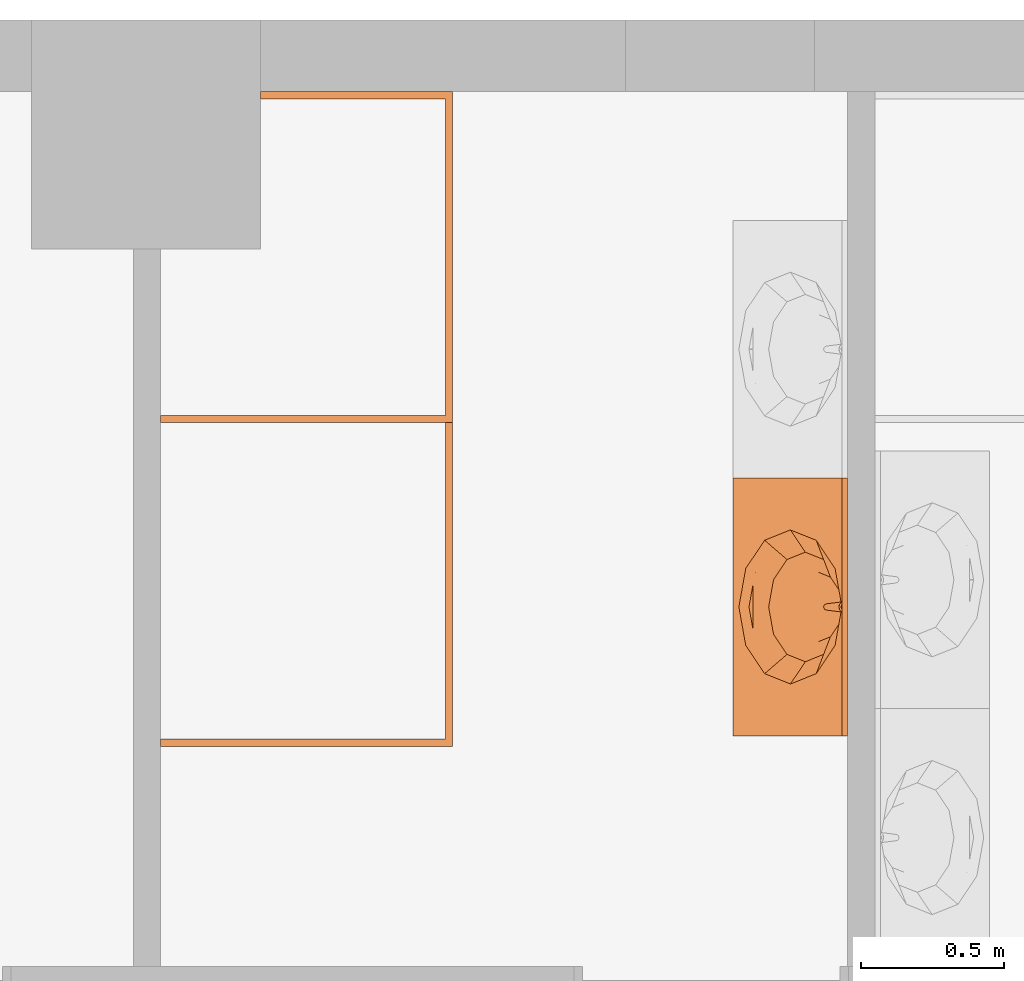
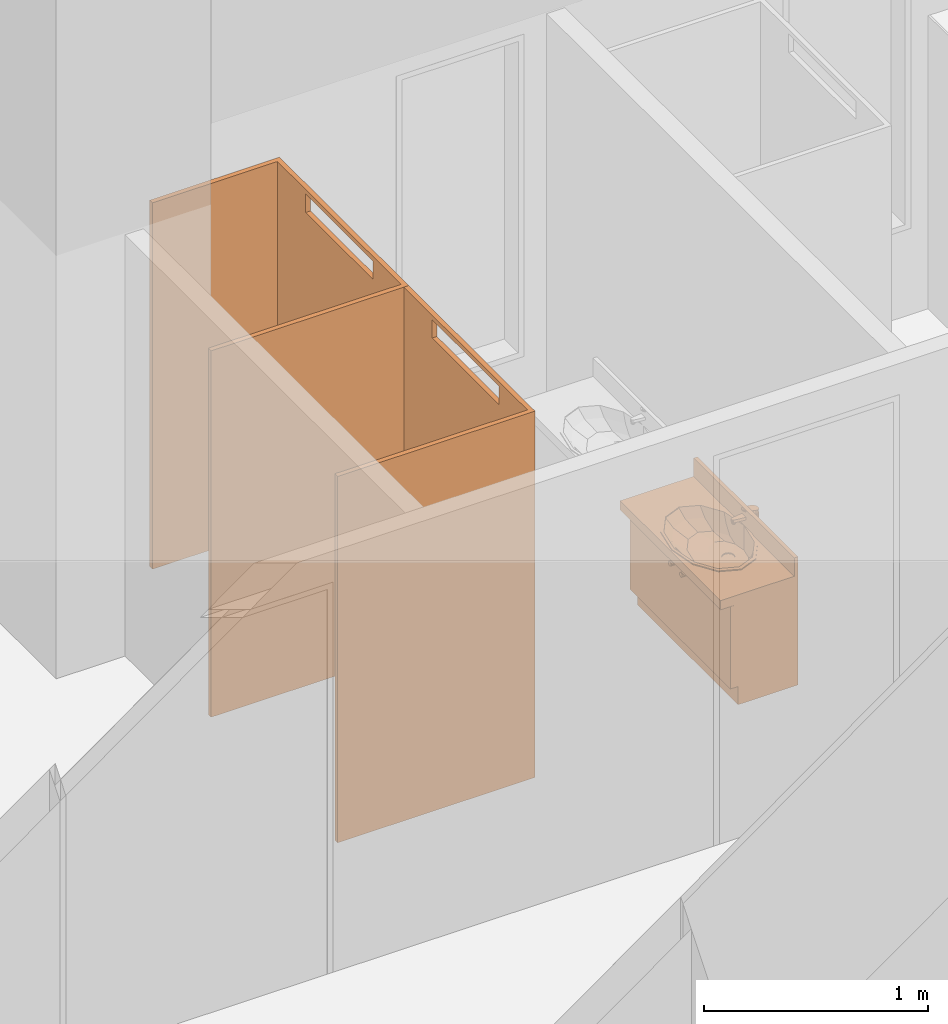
# One storey, part 13 of 17: 3 proxies.
"""IFC2X3 building model written with IfcOpenShell, lengths in millimetres."""

from ifc_helpers import new_model, entity, si_unit, converted_unit, direction, frame, origin_with_axes, place, context, project, spatial, open_shell, faceted_brep, surface_model, material, element, save


model = new_model("IFC2X3")

# Units and contexts
model_context = context("Model", 3, precision=1e-05, world=origin_with_axes(), true_north=direction((0.0, 1.0)))
ifc_project = project(units=[si_unit("LENGTHUNIT", "METRE", prefix="MILLI"), si_unit("AREAUNIT", "SQUARE_METRE"), si_unit("VOLUMEUNIT", "CUBIC_METRE"), converted_unit("PLANEANGLEUNIT", "DEGREE", entity("IfcPlaneAngleMeasure", 0.017453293), si_unit("PLANEANGLEUNIT", "RADIAN"), dimensions=[0, 0, 0, 0, 0, 0, 0]), si_unit("SOLIDANGLEUNIT", "STERADIAN"), si_unit("MASSUNIT", "GRAM"), si_unit("TIMEUNIT", "SECOND"), si_unit("THERMODYNAMICTEMPERATUREUNIT", "DEGREE_CELSIUS"), si_unit("LUMINOUSINTENSITYUNIT", "LUMEN")], contexts=[model_context])

# Site, building, storey
site_placement = place(None, origin_with_axes())
site = spatial("IfcSite", under=ifc_project, at=site_placement, Name="\x83T\x83C\x83g", CompositionType="ELEMENT")
building_placement = place(site_placement, origin_with_axes())
building = spatial("IfcBuilding", under=site, at=building_placement, Name="Daitec-Sample 201208", CompositionType="ELEMENT")
storey_placement = place(building_placement, origin_with_axes())
storey = spatial("IfcBuildingStorey", under=building, at=storey_placement, Name="1F", CompositionType="ELEMENT", Elevation=0.0)

# Proxies
ifc_material = material(Name="\x94w\x8ci")
proxy_1_placement = place(storey_placement, frame((19570.72, 22394.354, 0.0), z_axis=(0.0, 0.0, 1.0), x_axis=(0.0, 1.0, 0.0)))
element("IfcBuildingElementProxy", 1, at=proxy_1_placement, inside=storey, material=ifc_material, Name="O0", CompositionType="ELEMENT", context=model_context, shape_type="Brep", body=[
    faceted_brep([(0.0, 0.0, 200.0), (277.82295, 0.0, 200.0), (277.82295, 0.0, 1975.0), (0.0, 0.0, 1975.0), (0.0, 25.0, 200.0), (277.82295, 25.0, 200.0), (277.82295, 25.0, 1975.0), (0.0, 25.0, 1975.0)], [[[0, 1, 2, 3]], [[0, 4, 5, 1]], [[1, 5, 6, 2]], [[3, 2, 6, 7]], [[4, 0, 3, 7]], [[5, 4, 7, 6]]]),
    faceted_brep([(877.82295, 0.0, 200.0), (1155.6459, 0.0, 200.0), (1155.6459, 0.0, 1975.0), (877.82295, 0.0, 1975.0), (877.82295, 25.0, 200.0), (1155.6459, 25.0, 200.0), (1155.6459, 25.0, 1975.0), (877.82295, 25.0, 1975.0)], [[[0, 1, 2, 3]], [[0, 4, 5, 1]], [[1, 5, 6, 2]], [[3, 2, 6, 7]], [[4, 0, 3, 7]], [[5, 4, 7, 6]]]),
    faceted_brep([(0.0, 0.0, 0.0), (277.82295, 0.0, 0.0), (277.82295, 0.0, 200.0), (0.0, 0.0, 200.0), (0.0, 25.0, 0.0), (277.82295, 25.0, 0.0), (277.82295, 25.0, 200.0), (0.0, 25.0, 200.0)], [[[0, 1, 2, 3]], [[0, 4, 5, 1]], [[1, 5, 6, 2]], [[3, 2, 6, 7]], [[4, 0, 3, 7]], [[5, 4, 7, 6]]]),
    faceted_brep([(877.82295, 0.0, 0.0), (1155.6459, 0.0, 0.0), (1155.6459, 0.0, 200.0), (877.82295, 0.0, 200.0), (877.82295, 25.0, 0.0), (1155.6459, 25.0, 0.0), (1155.6459, 25.0, 200.0), (877.82295, 25.0, 200.0)], [[[0, 1, 2, 3]], [[0, 4, 5, 1]], [[1, 5, 6, 2]], [[3, 2, 6, 7]], [[4, 0, 3, 7]], [[5, 4, 7, 6]]]),
    faceted_brep([(1155.6459, 0.0, 1975.0), (1155.6459, 25.0, 1975.0), (1155.6459, 25.0, 2000.0), (1155.6459, 0.0, 2000.0), (0.0, 0.0, 1975.0), (0.0, 25.0, 1975.0), (0.0, 25.0, 2000.0), (0.0, 0.0, 2000.0)], [[[0, 1, 2, 3]], [[0, 4, 5, 1]], [[1, 5, 6, 2]], [[3, 2, 6, 7]], [[4, 0, 3, 7]], [[5, 4, 7, 6]]]),
    faceted_brep([(277.82295, 0.0, 50.0), (877.82295, 0.0, 50.0), (877.82295, 0.0, 1875.0), (277.82295, 0.0, 1875.0), (277.82295, 25.0, 50.0), (877.82295, 25.0, 50.0), (877.82295, 25.0, 1875.0), (277.82295, 25.0, 1875.0)], [[[0, 1, 2, 3]], [[0, 4, 5, 1]], [[1, 5, 6, 2]], [[3, 2, 6, 7]], [[4, 0, 3, 7]], [[5, 4, 7, 6]]]),
    faceted_brep([(25.0, 25.0, 0.0), (25.0, 1019.9703, 0.0), (25.0, 1019.9703, 2000.0), (25.0, 25.0, 2000.0), (0.0, 25.0, 0.0), (0.0, 1019.9703, 0.0), (0.0, 1019.9703, 2000.0), (0.0, 25.0, 2000.0)], [[[0, 1, 2, 3]], [[0, 4, 5, 1]], [[1, 5, 6, 2]], [[3, 2, 6, 7]], [[4, 0, 3, 7]], [[5, 4, 7, 6]]]),
    faceted_brep([(25.0, 25.0, 1775.0), (25.0, 1019.9703, 1775.0), (25.0, 1019.9703, 1800.0), (25.0, 25.0, 1800.0), (0.0, 25.0, 1775.0), (0.0, 1019.9703, 1775.0), (0.0, 1019.9703, 1800.0), (0.0, 25.0, 1800.0)], [[[0, 1, 2, 3]], [[0, 4, 5, 1]], [[1, 5, 6, 2]], [[3, 2, 6, 7]], [[4, 0, 3, 7]], [[5, 4, 7, 6]]]),
    faceted_brep([(1155.6459, 25.0, 0.0), (1155.6459, 670.22795, 0.0), (1155.6459, 670.22795, 2000.0), (1155.6459, 25.0, 2000.0), (1130.6459, 25.0, 0.0), (1130.6459, 670.22795, 0.0), (1130.6459, 670.22795, 2000.0), (1130.6459, 25.0, 2000.0)], [[[0, 1, 2, 3]], [[0, 4, 5, 1]], [[1, 5, 6, 2]], [[3, 2, 6, 7]], [[4, 0, 3, 7]], [[5, 4, 7, 6]]]),
    faceted_brep([(1155.6459, 25.0, 1775.0), (1155.6459, 670.22795, 1775.0), (1155.6459, 670.22795, 1800.0), (1155.6459, 25.0, 1800.0), (1130.6459, 25.0, 1775.0), (1130.6459, 670.22795, 1775.0), (1130.6459, 670.22795, 1800.0), (1130.6459, 25.0, 1800.0)], [[[0, 1, 2, 3]], [[0, 4, 5, 1]], [[1, 5, 6, 2]], [[3, 2, 6, 7]], [[4, 0, 3, 7]], [[5, 4, 7, 6]]]),
])
proxy_2_placement = place(storey_placement, frame((19570.72, 21263.708, 0.0), z_axis=(0.0, 0.0, 1.0), x_axis=(0.0, 1.0, 0.0)))
element("IfcBuildingElementProxy", 2, at=proxy_2_placement, inside=storey, material=ifc_material, Name="O0", CompositionType="ELEMENT", context=model_context, shape_type="Brep", body=[
    faceted_brep([(0.0, 0.0, 200.0), (277.82295, 0.0, 200.0), (277.82295, 0.0, 1975.0), (0.0, 0.0, 1975.0), (0.0, 25.0, 200.0), (277.82295, 25.0, 200.0), (277.82295, 25.0, 1975.0), (0.0, 25.0, 1975.0)], [[[0, 1, 2, 3]], [[0, 4, 5, 1]], [[1, 5, 6, 2]], [[3, 2, 6, 7]], [[4, 0, 3, 7]], [[5, 4, 7, 6]]]),
    faceted_brep([(877.82295, 0.0, 200.0), (1155.6459, 0.0, 200.0), (1155.6459, 0.0, 1975.0), (877.82295, 0.0, 1975.0), (877.82295, 25.0, 200.0), (1155.6459, 25.0, 200.0), (1155.6459, 25.0, 1975.0), (877.82295, 25.0, 1975.0)], [[[0, 1, 2, 3]], [[0, 4, 5, 1]], [[1, 5, 6, 2]], [[3, 2, 6, 7]], [[4, 0, 3, 7]], [[5, 4, 7, 6]]]),
    faceted_brep([(0.0, 0.0, 0.0), (277.82295, 0.0, 0.0), (277.82295, 0.0, 200.0), (0.0, 0.0, 200.0), (0.0, 25.0, 0.0), (277.82295, 25.0, 0.0), (277.82295, 25.0, 200.0), (0.0, 25.0, 200.0)], [[[0, 1, 2, 3]], [[0, 4, 5, 1]], [[1, 5, 6, 2]], [[3, 2, 6, 7]], [[4, 0, 3, 7]], [[5, 4, 7, 6]]]),
    faceted_brep([(877.82295, 0.0, 0.0), (1155.6459, 0.0, 0.0), (1155.6459, 0.0, 200.0), (877.82295, 0.0, 200.0), (877.82295, 25.0, 0.0), (1155.6459, 25.0, 0.0), (1155.6459, 25.0, 200.0), (877.82295, 25.0, 200.0)], [[[0, 1, 2, 3]], [[0, 4, 5, 1]], [[1, 5, 6, 2]], [[3, 2, 6, 7]], [[4, 0, 3, 7]], [[5, 4, 7, 6]]]),
    faceted_brep([(1155.6459, 0.0, 1975.0), (1155.6459, 25.0, 1975.0), (1155.6459, 25.0, 2000.0), (1155.6459, 0.0, 2000.0), (0.0, 0.0, 1975.0), (0.0, 25.0, 1975.0), (0.0, 25.0, 2000.0), (0.0, 0.0, 2000.0)], [[[0, 1, 2, 3]], [[0, 4, 5, 1]], [[1, 5, 6, 2]], [[3, 2, 6, 7]], [[4, 0, 3, 7]], [[5, 4, 7, 6]]]),
    faceted_brep([(277.82295, 0.0, 50.0), (877.82295, 0.0, 50.0), (877.82295, 0.0, 1875.0), (277.82295, 0.0, 1875.0), (277.82295, 25.0, 50.0), (877.82295, 25.0, 50.0), (877.82295, 25.0, 1875.0), (277.82295, 25.0, 1875.0)], [[[0, 1, 2, 3]], [[0, 4, 5, 1]], [[1, 5, 6, 2]], [[3, 2, 6, 7]], [[4, 0, 3, 7]], [[5, 4, 7, 6]]]),
    faceted_brep([(25.0, 25.0, 0.0), (25.0, 1019.9703, 0.0), (25.0, 1019.9703, 2000.0), (25.0, 25.0, 2000.0), (0.0, 25.0, 0.0), (0.0, 1019.9703, 0.0), (0.0, 1019.9703, 2000.0), (0.0, 25.0, 2000.0)], [[[0, 1, 2, 3]], [[0, 4, 5, 1]], [[1, 5, 6, 2]], [[3, 2, 6, 7]], [[4, 0, 3, 7]], [[5, 4, 7, 6]]]),
    faceted_brep([(25.0, 25.0, 1775.0), (25.0, 1019.9703, 1775.0), (25.0, 1019.9703, 1800.0), (25.0, 25.0, 1800.0), (0.0, 25.0, 1775.0), (0.0, 1019.9703, 1775.0), (0.0, 1019.9703, 1800.0), (0.0, 25.0, 1800.0)], [[[0, 1, 2, 3]], [[0, 4, 5, 1]], [[1, 5, 6, 2]], [[3, 2, 6, 7]], [[4, 0, 3, 7]], [[5, 4, 7, 6]]]),
    faceted_brep([(1155.6459, 25.0, 0.0), (1155.6459, 1019.9703, 0.0), (1155.6459, 1019.9703, 2000.0), (1155.6459, 25.0, 2000.0), (1130.6459, 25.0, 0.0), (1130.6459, 1019.9703, 0.0), (1130.6459, 1019.9703, 2000.0), (1130.6459, 25.0, 2000.0)], [[[0, 1, 2, 3]], [[0, 4, 5, 1]], [[1, 5, 6, 2]], [[3, 2, 6, 7]], [[4, 0, 3, 7]], [[5, 4, 7, 6]]]),
    faceted_brep([(1155.6459, 25.0, 1775.0), (1155.6459, 1019.9703, 1775.0), (1155.6459, 1019.9703, 1800.0), (1155.6459, 25.0, 1800.0), (1130.6459, 25.0, 1775.0), (1130.6459, 1019.9703, 1775.0), (1130.6459, 1019.9703, 1800.0), (1130.6459, 25.0, 1800.0)], [[[0, 1, 2, 3]], [[0, 4, 5, 1]], [[1, 5, 6, 2]], [[3, 2, 6, 7]], [[4, 0, 3, 7]], [[5, 4, 7, 6]]]),
])
proxy_3_placement = place(storey_placement, frame((20550.071, 21300.379, 0.0), z_axis=(0.0, 0.0, 1.0), x_axis=(0.0, -1.0, 0.0)))
element("IfcBuildingElementProxy", 3, at=proxy_3_placement, inside=storey, material=ifc_material, Name="O2", context=model_context, shape_type="Brep", body=[
    faceted_brep([(0.0, 90.0, 0.0), (0.0, 90.0, 100.0), (-900.0, 90.0, 100.0), (-900.0, 90.0, 0.0), (0.0, 400.0, 0.0), (0.0, 400.0, 100.0), (-900.0, 400.0, 100.0), (-900.0, 400.0, 0.0)], [[[0, 1, 2, 3]], [[4, 5, 1, 0]], [[1, 5, 6, 2]], [[3, 2, 6, 7]], [[0, 3, 7, 4]], [[7, 6, 5, 4]]]),
    faceted_brep([(0.0, 70.0, 100.0), (0.0, 70.0, 120.0), (-20.0, 70.0, 120.0), (-20.0, 70.0, 100.0), (0.0, 400.0, 100.0), (0.0, 400.0, 120.0), (-20.0, 400.0, 120.0), (-880.0, 400.0, 120.0), (-900.0, 400.0, 120.0), (-900.0, 70.0, 120.0), (-880.0, 70.0, 120.0), (-880.0, 70.0, 100.0), (-900.0, 70.0, 100.0), (-900.0, 400.0, 100.0), (-880.0, 400.0, 100.0), (-20.0, 400.0, 100.0)], [[[0, 1, 2, 3]], [[4, 5, 1, 0]], [[1, 5, 6, 7, 8, 9, 10, 2]], [[3, 2, 10, 11]], [[0, 3, 11, 12, 13, 14, 15, 4]], [[15, 6, 5, 4]], [[14, 7, 6, 15]], [[13, 8, 7, 14]], [[12, 9, 8, 13]], [[11, 10, 9, 12]]]),
    faceted_brep([(0.0, 70.0, 120.0), (0.0, 70.0, 550.0), (-20.0, 70.0, 550.0), (-20.0, 70.0, 120.0), (0.0, 400.0, 120.0), (0.0, 400.0, 550.0), (-900.0, 400.0, 550.0), (-900.0, 70.0, 550.0), (-880.0, 70.0, 550.0), (-880.0, 380.0, 550.0), (-20.0, 380.0, 550.0), (-20.0, 380.0, 120.0), (-880.0, 380.0, 120.0), (-880.0, 70.0, 120.0), (-900.0, 70.0, 120.0), (-900.0, 400.0, 120.0)], [[[0, 1, 2, 3]], [[4, 5, 1, 0]], [[1, 5, 6, 7, 8, 9, 10, 2]], [[3, 2, 10, 11]], [[0, 3, 11, 12, 13, 14, 15, 4]], [[15, 6, 5, 4]], [[14, 7, 6, 15]], [[13, 8, 7, 14]], [[12, 9, 8, 13]], [[11, 10, 9, 12]]]),
    faceted_brep([(-880.0, 70.0, 223.33333), (-880.0, 70.0, 243.33333), (-880.0, 380.0, 243.33333), (-880.0, 380.0, 223.33333), (-20.0, 70.0, 223.33333), (-20.0, 70.0, 243.33333), (-20.0, 380.0, 243.33333), (-20.0, 380.0, 223.33333)], [[[0, 1, 2, 3]], [[4, 5, 1, 0]], [[1, 5, 6, 2]], [[3, 2, 6, 7]], [[0, 3, 7, 4]], [[7, 6, 5, 4]]]),
    faceted_brep([(-880.0, 70.0, 366.66667), (-880.0, 70.0, 386.66667), (-880.0, 380.0, 386.66667), (-880.0, 380.0, 366.66667), (-20.0, 70.0, 366.66667), (-20.0, 70.0, 386.66667), (-20.0, 380.0, 386.66667), (-20.0, 380.0, 366.66667)], [[[0, 1, 2, 3]], [[4, 5, 1, 0]], [[1, 5, 6, 2]], [[3, 2, 6, 7]], [[0, 3, 7, 4]], [[7, 6, 5, 4]]]),
    faceted_brep([(0.0, 400.0, 550.0), (0.0, 0.0, 550.0), (-900.0, 0.0, 550.0), (-900.0, 400.0, 550.0), (-216.17314, 290.0, 550.0), (-315.0, 355.88457, 550.0), (-450.0, 380.0, 550.0), (-585.0, 355.88457, 550.0), (-683.82686, 290.0, 550.0), (-720.0, 200.0, 550.0), (-683.82686, 110.0, 550.0), (-585.0, 44.115427, 550.0), (-450.0, 20.0, 550.0), (-315.0, 44.115427, 550.0), (-216.17314, 110.0, 550.0), (-180.0, 200.0, 550.0), (0.0, 400.0, 600.0), (0.0, 0.0, 600.0), (-900.0, 0.0, 600.0), (-900.0, 400.0, 600.0), (-216.17314, 290.0, 600.0), (-315.0, 355.88457, 600.0), (-450.0, 380.0, 600.0), (-585.0, 355.88457, 600.0), (-683.82686, 290.0, 600.0), (-720.0, 200.0, 600.0), (-683.82686, 110.0, 600.0), (-585.0, 44.115427, 600.0), (-450.0, 20.0, 600.0), (-315.0, 44.115427, 600.0), (-216.17314, 110.0, 600.0), (-180.0, 200.0, 600.0)], [[[0, 1, 2, 3], [4, 5, 6, 7, 8, 9, 10, 11, 12, 13, 14, 15]], [[1, 0, 16, 17]], [[2, 1, 17, 18]], [[3, 2, 18, 19]], [[0, 3, 19, 16]], [[20, 21, 5, 4]], [[21, 22, 6, 5]], [[22, 23, 7, 6]], [[23, 24, 8, 7]], [[24, 25, 9, 8]], [[25, 26, 10, 9]], [[26, 27, 11, 10]], [[27, 28, 12, 11]], [[28, 29, 13, 12]], [[29, 30, 14, 13]], [[30, 31, 15, 14]], [[31, 20, 4, 15]], [[18, 17, 16, 19], [24, 23, 22, 21, 20, 31, 30, 29, 28, 27, 26, 25]]]),
    faceted_brep([(0.0, 380.0, 600.0), (0.0, 380.0, 700.0), (-900.0, 380.0, 700.0), (-900.0, 380.0, 600.0), (0.0, 400.0, 600.0), (0.0, 400.0, 700.0), (-900.0, 400.0, 700.0), (-900.0, 400.0, 600.0)], [[[0, 1, 2, 3]], [[4, 5, 1, 0]], [[1, 5, 6, 2]], [[3, 2, 6, 7]], [[0, 3, 7, 4]], [[7, 6, 5, 4]]]),
    faceted_brep([(-739.0, 200.0, 605.0), (-700.28134, 296.69145, 605.0), (-700.28134, 296.69145, 600.0), (-739.0, 200.0, 600.0), (-700.28134, 103.30855, 605.0), (-594.5, 32.525496, 605.0), (-450.0, 6.6171004, 605.0), (-305.5, 32.525496, 605.0), (-199.71866, 103.30855, 605.0), (-161.0, 200.0, 605.0), (-199.71866, 296.69145, 605.0), (-305.5, 367.4745, 605.0), (-450.0, 393.3829, 605.0), (-594.5, 367.4745, 605.0), (-719.0, 200.0, 605.0), (-682.96083, 290.0, 605.0), (-584.5, 355.88457, 605.0), (-450.0, 380.0, 605.0), (-315.5, 355.88457, 605.0), (-217.03917, 290.0, 605.0), (-181.0, 200.0, 605.0), (-217.03917, 110.0, 605.0), (-315.5, 44.115427, 605.0), (-450.0, 20.0, 605.0), (-584.5, 44.115427, 605.0), (-682.96083, 110.0, 605.0), (-594.5, 367.4745, 600.0), (-450.0, 393.3829, 600.0), (-305.5, 367.4745, 600.0), (-199.71866, 296.69145, 600.0), (-161.0, 200.0, 600.0), (-199.71866, 103.30855, 600.0), (-305.5, 32.525496, 600.0), (-450.0, 6.6171004, 600.0), (-594.5, 32.525496, 600.0), (-700.28134, 103.30855, 600.0), (-719.0, 200.0, 600.0), (-682.96083, 110.0, 600.0), (-584.5, 44.115427, 600.0), (-450.0, 20.0, 600.0), (-315.5, 44.115427, 600.0), (-217.03917, 110.0, 600.0), (-181.0, 200.0, 600.0), (-217.03917, 290.0, 600.0), (-315.5, 355.88457, 600.0), (-450.0, 380.0, 600.0), (-584.5, 355.88457, 600.0), (-682.96083, 290.0, 600.0)], [[[0, 1, 2, 3]], [[0, 4, 5, 6, 7, 8, 9, 10, 11, 12, 13, 1], [14, 15, 16, 17, 18, 19, 20, 21, 22, 23, 24, 25]], [[1, 13, 26, 2]], [[3, 2, 26, 27, 28, 29, 30, 31, 32, 33, 34, 35], [36, 37, 38, 39, 40, 41, 42, 43, 44, 45, 46, 47]], [[4, 0, 3, 35]], [[5, 4, 35, 34]], [[6, 5, 34, 33]], [[7, 6, 33, 32]], [[8, 7, 32, 31]], [[9, 8, 31, 30]], [[10, 9, 30, 29]], [[11, 10, 29, 28]], [[12, 11, 28, 27]], [[13, 12, 27, 26]], [[15, 14, 36, 47]], [[16, 15, 47, 46]], [[17, 16, 46, 45]], [[18, 17, 45, 44]], [[19, 18, 44, 43]], [[20, 19, 43, 42]], [[21, 20, 42, 41]], [[22, 21, 41, 40]], [[23, 22, 40, 39]], [[24, 23, 39, 38]], [[25, 24, 38, 37]], [[14, 25, 37, 36]]]),
    surface_model("IfcShellBasedSurfaceModel", [(-450.0, 380.0, 600.0), (-584.5, 355.88457, 600.0), (-571.05, 358.29612, 548.0), (-450.0, 380.0, 548.0), (-682.96083, 290.0, 600.0), (-659.66475, 299.0, 548.0), (-315.5, 355.88457, 600.0), (-328.95, 358.29612, 548.0), (-719.0, 200.0, 600.0), (-692.1, 218.0, 548.0), (-217.03917, 290.0, 600.0), (-240.33525, 299.0, 548.0), (-682.96083, 110.0, 600.0), (-659.66475, 137.0, 548.0), (-181.0, 200.0, 600.0), (-207.9, 218.0, 548.0), (-584.5, 44.115427, 600.0), (-571.05, 77.703885, 548.0), (-217.03917, 110.0, 600.0), (-240.33525, 137.0, 548.0), (-450.0, 20.0, 600.0), (-450.0, 56.0, 548.0), (-315.5, 44.115427, 600.0), (-328.95, 77.703885, 548.0)], [open_shell([[[0, 1, 2, 3]], [[1, 4, 5, 2]], [[6, 0, 3, 7]], [[4, 8, 9, 5]], [[10, 6, 7, 11]], [[8, 12, 13, 9]], [[14, 10, 11, 15]], [[12, 16, 17, 13]], [[18, 14, 15, 19]], [[16, 20, 21, 17]], [[22, 18, 19, 23]], [[20, 22, 23, 21]]])]),
    surface_model("IfcShellBasedSurfaceModel", [(-450.0, 380.0, 548.0), (-571.05, 358.29612, 548.0), (-545.6295, 362.85393, 496.0), (-450.0, 380.0, 496.0), (-659.66475, 299.0, 548.0), (-615.63515, 316.01, 496.0), (-328.95, 358.29612, 548.0), (-354.3705, 362.85393, 496.0), (-692.1, 218.0, 548.0), (-641.259, 252.02, 496.0), (-240.33525, 299.0, 548.0), (-284.36485, 316.01, 496.0), (-659.66475, 137.0, 548.0), (-615.63515, 188.03, 496.0), (-207.9, 218.0, 548.0), (-258.741, 252.02, 496.0), (-571.05, 77.703885, 548.0), (-545.6295, 141.18607, 496.0), (-240.33525, 137.0, 548.0), (-284.36485, 188.03, 496.0), (-450.0, 56.0, 548.0), (-450.0, 124.04, 496.0), (-328.95, 77.703885, 548.0), (-354.3705, 141.18607, 496.0)], [open_shell([[[0, 1, 2, 3]], [[1, 4, 5, 2]], [[6, 0, 3, 7]], [[4, 8, 9, 5]], [[10, 6, 7, 11]], [[8, 12, 13, 9]], [[14, 10, 11, 15]], [[12, 16, 17, 13]], [[18, 14, 15, 19]], [[16, 20, 21, 17]], [[22, 18, 19, 23]], [[20, 22, 23, 21]]])]),
    surface_model("IfcShellBasedSurfaceModel", [(-450.0, 380.0, 496.0), (-545.6295, 362.85393, 496.0), (-510.24659, 369.19798, 470.0), (-450.0, 380.0, 470.0), (-615.63515, 316.01, 496.0), (-554.35015, 339.6863, 470.0), (-354.3705, 362.85393, 496.0), (-389.75341, 369.19798, 470.0), (-641.259, 252.02, 496.0), (-570.49317, 299.3726, 470.0), (-284.36485, 316.01, 496.0), (-345.64985, 339.6863, 470.0), (-615.63515, 188.03, 496.0), (-554.35015, 259.0589, 470.0), (-258.741, 252.02, 496.0), (-329.50683, 299.3726, 470.0), (-545.6295, 141.18607, 496.0), (-510.24659, 229.54722, 470.0), (-284.36485, 188.03, 496.0), (-345.64985, 259.0589, 470.0), (-450.0, 124.04, 496.0), (-450.0, 218.7452, 470.0), (-354.3705, 141.18607, 496.0), (-389.75341, 229.54722, 470.0)], [open_shell([[[0, 1, 2, 3]], [[1, 4, 5, 2]], [[6, 0, 3, 7]], [[4, 8, 9, 5]], [[10, 6, 7, 11]], [[8, 12, 13, 9]], [[14, 10, 11, 15]], [[12, 16, 17, 13]], [[18, 14, 15, 19]], [[16, 20, 21, 17]], [[22, 18, 19, 23]], [[20, 22, 23, 21]]])]),
    surface_model("IfcShellBasedSurfaceModel", [(-450.0, 380.0, 470.0), (-510.24659, 369.19798, 470.0), (-465.0, 325.35336, 463.0), (-475.98076, 314.3726, 463.0), (-450.0, 329.3726, 463.0), (-554.35015, 339.6863, 470.0), (-389.75341, 369.19798, 470.0), (-480.0, 299.3726, 463.0), (-435.0, 325.35336, 463.0), (-570.49317, 299.3726, 470.0), (-345.64985, 339.6863, 470.0), (-475.98076, 284.3726, 463.0), (-424.01924, 314.3726, 463.0), (-554.35015, 259.0589, 470.0), (-329.50683, 299.3726, 470.0), (-465.0, 273.39184, 463.0), (-420.0, 299.3726, 463.0), (-510.24659, 229.54722, 470.0), (-345.64985, 259.0589, 470.0), (-450.0, 269.3726, 463.0), (-424.01924, 284.3726, 463.0), (-450.0, 218.7452, 470.0), (-389.75341, 229.54722, 470.0), (-435.0, 273.39184, 463.0)], [open_shell([[[0, 1, 2]], [[1, 3, 2]], [[0, 2, 4]], [[1, 5, 3]], [[6, 0, 4]], [[5, 7, 3]], [[6, 4, 8]], [[5, 9, 7]], [[10, 6, 8]], [[9, 11, 7]], [[10, 8, 12]], [[9, 13, 11]], [[14, 10, 12]], [[13, 15, 11]], [[14, 12, 16]], [[13, 17, 15]], [[18, 14, 16]], [[17, 19, 15]], [[18, 16, 20]], [[17, 21, 19]], [[22, 18, 20]], [[21, 23, 19]], [[22, 20, 23]], [[21, 22, 23]]])]),
    surface_model("IfcShellBasedSurfaceModel", [(-480.0, 299.3726, 463.0), (-475.98076, 314.3726, 463.0), (-475.98076, 314.3726, 458.0), (-480.0, 299.3726, 458.0), (-465.0, 325.35336, 463.0), (-465.0, 325.35336, 458.0), (-450.0, 329.3726, 458.0), (-435.0, 325.35336, 458.0), (-424.01924, 314.3726, 458.0), (-420.0, 299.3726, 458.0), (-424.01924, 284.3726, 458.0), (-435.0, 273.39184, 458.0), (-450.0, 269.3726, 458.0), (-465.0, 273.39184, 458.0), (-475.98076, 284.3726, 458.0), (-475.98076, 284.3726, 463.0), (-450.0, 329.3726, 463.0), (-435.0, 325.35336, 463.0), (-424.01924, 314.3726, 463.0), (-420.0, 299.3726, 463.0), (-424.01924, 284.3726, 463.0), (-435.0, 273.39184, 463.0), (-450.0, 269.3726, 463.0), (-465.0, 273.39184, 463.0)], [open_shell([[[0, 1, 2, 3]], [[1, 4, 5, 2]], [[3, 2, 5, 6, 7, 8, 9, 10, 11, 12, 13, 14]], [[15, 0, 3, 14]], [[4, 16, 6, 5]], [[16, 17, 7, 6]], [[17, 18, 8, 7]], [[18, 19, 9, 8]], [[19, 20, 10, 9]], [[20, 21, 11, 10]], [[21, 22, 12, 11]], [[22, 23, 13, 12]], [[23, 15, 14, 13]]])]),
    faceted_brep([(-462.5, 451.65064, 600.0), (-460.58732, 448.33778, 676.50709), (-450.0, 451.20192, 675.96154), (-450.0, 455.0, 600.0), (-471.65064, 442.5, 600.0), (-468.27355, 440.55024, 677.99043), (-471.0, 430.0, 680.0), (-468.10034, 419.54976, 681.99052), (-460.41411, 411.96224, 683.43576), (-450.0, 409.19811, 683.96226), (-439.58589, 411.96224, 683.43576), (-431.89966, 419.54976, 681.99052), (-429.0, 430.0, 680.0), (-431.72645, 440.55024, 677.99043), (-439.41268, 448.33778, 676.50709), (-437.5, 451.65064, 600.0), (-428.34936, 442.5, 600.0), (-425.0, 430.0, 600.0), (-428.34936, 417.5, 600.0), (-437.5, 408.34936, 600.0), (-450.0, 405.0, 600.0), (-462.5, 408.34936, 600.0), (-471.65064, 417.5, 600.0), (-475.0, 430.0, 600.0)], [[[0, 1, 2, 3]], [[4, 5, 1, 0]], [[1, 5, 6, 7, 8, 9, 10, 11, 12, 13, 14, 2]], [[3, 2, 14, 15]], [[0, 3, 15, 16, 17, 18, 19, 20, 21, 22, 23, 4]], [[23, 6, 5, 4]], [[22, 7, 6, 23]], [[21, 8, 7, 22]], [[20, 9, 8, 21]], [[19, 10, 9, 20]], [[18, 11, 10, 19]], [[17, 12, 11, 18]], [[16, 13, 12, 17]], [[15, 14, 13, 16]]]),
    faceted_brep([(-459.0, 327.0, 635.0), (-459.0, 327.0, 645.0), (-457.79423, 331.5, 645.0), (-457.79423, 331.5, 635.0), (-457.79423, 322.5, 635.0), (-457.79423, 322.5, 645.0), (-454.5, 319.20577, 645.0), (-450.0, 318.0, 645.0), (-445.5, 319.20577, 645.0), (-442.20577, 322.5, 645.0), (-441.0, 327.0, 645.0), (-442.20577, 331.5, 645.0), (-445.5, 334.79423, 645.0), (-450.0, 336.0, 645.0), (-454.5, 334.79423, 645.0), (-454.5, 334.79423, 635.0), (-450.0, 336.0, 635.0), (-445.5, 334.79423, 635.0), (-442.20577, 331.5, 635.0), (-441.0, 327.0, 635.0), (-442.20577, 322.5, 635.0), (-445.5, 319.20577, 635.0), (-450.0, 318.0, 635.0), (-454.5, 319.20577, 635.0)], [[[0, 1, 2, 3]], [[4, 5, 1, 0]], [[1, 5, 6, 7, 8, 9, 10, 11, 12, 13, 14, 2]], [[3, 2, 14, 15]], [[0, 3, 15, 16, 17, 18, 19, 20, 21, 22, 23, 4]], [[23, 6, 5, 4]], [[22, 7, 6, 23]], [[21, 8, 7, 22]], [[20, 9, 8, 21]], [[19, 10, 9, 20]], [[18, 11, 10, 19]], [[17, 12, 11, 18]], [[16, 13, 12, 17]], [[15, 14, 13, 16]]]),
    faceted_brep([(-440.97112, 320.71681, 660.0), (-439.08801, 325.61163, 660.0), (-426.1946, 426.9501, 660.0), (-428.27219, 440.19321, 660.0), (-437.12828, 450.2563, 660.0), (-450.0, 453.99998, 660.0), (-462.87172, 450.2563, 660.0), (-471.72781, 440.1932, 660.0), (-473.8054, 426.9501, 660.0), (-460.912, 325.6117, 660.0), (-459.02892, 320.71687, 660.0), (-455.09339, 317.25031, 660.0), (-450.00004, 316.00004, 660.0), (-444.90668, 317.25027, 660.0), (-469.05256, 441.0, 660.0), (-461.0, 449.05256, 660.0), (-450.0, 452.0, 660.0), (-439.0, 449.05256, 660.0), (-430.94744, 441.0, 660.0), (-428.0, 430.0, 660.0), (-430.94744, 419.0, 660.0), (-439.0, 410.94744, 660.0), (-450.0, 408.0, 660.0), (-461.0, 410.94744, 660.0), (-469.05256, 419.0, 660.0), (-472.0, 430.0, 660.0), (-440.97112, 320.71681, 645.0), (-439.08801, 325.61163, 645.0), (-426.1946, 426.9501, 645.0), (-428.27219, 440.19321, 645.0), (-437.12828, 450.2563, 645.0), (-450.0, 453.99998, 645.0), (-462.87172, 450.2563, 645.0), (-471.72781, 440.1932, 645.0), (-473.8054, 426.9501, 645.0), (-460.912, 325.6117, 645.0), (-459.02892, 320.71687, 645.0), (-455.09339, 317.25031, 645.0), (-450.00004, 316.00004, 645.0), (-444.90668, 317.25027, 645.0), (-469.70208, 441.375, 645.0), (-461.375, 449.70208, 645.0), (-450.0, 452.75, 645.0), (-438.625, 449.70208, 645.0), (-430.29792, 441.375, 645.0), (-427.25, 430.0, 645.0), (-430.29792, 418.625, 645.0), (-438.625, 410.29792, 645.0), (-450.0, 407.25, 645.0), (-461.375, 410.29792, 645.0), (-469.70208, 418.625, 645.0), (-472.75, 430.0, 645.0)], [[[0, 1, 2, 3, 4, 5, 6, 7, 8, 9, 10, 11, 12, 13], [14, 15, 16, 17, 18, 19, 20, 21, 22, 23, 24, 25]], [[26, 27, 1, 0]], [[27, 28, 2, 1]], [[28, 29, 3, 2]], [[29, 30, 4, 3]], [[30, 31, 5, 4]], [[31, 32, 6, 5]], [[32, 33, 7, 6]], [[33, 34, 8, 7]], [[34, 35, 9, 8]], [[35, 36, 10, 9]], [[36, 37, 11, 10]], [[37, 38, 12, 11]], [[38, 39, 13, 12]], [[39, 26, 0, 13]], [[40, 41, 15, 14]], [[41, 42, 16, 15]], [[42, 43, 17, 16]], [[43, 44, 18, 17]], [[44, 45, 19, 18]], [[20, 19, 45, 46]], [[21, 20, 46, 47]], [[22, 21, 47, 48]], [[23, 22, 48, 49]], [[24, 23, 49, 50]], [[50, 51, 25, 24]], [[51, 40, 14, 25]], [[28, 27, 26, 39, 38, 37, 36, 35, 34, 33, 32, 31, 30, 29], [44, 43, 42, 41, 40, 51, 50, 49, 48, 47, 46, 45]]]),
    faceted_brep([(-473.893, 428.30743, 680.32239), (-473.893, 429.05588, 684.25175), (-471.29642, 441.52317, 681.87703), (-471.29642, 440.77472, 677.94767), (-470.94594, 388.1633, 687.9689), (-470.94594, 388.91175, 691.89825), (-467.66314, 379.23408, 693.74161), (-460.06144, 372.2847, 695.06531), (-449.99956, 369.76284, 695.54566), (-439.93779, 372.28512, 695.06523), (-432.33638, 379.23481, 693.74148), (-429.054, 388.91261, 691.89808), (-426.10698, 429.05616, 684.2517), (-428.70371, 441.52342, 681.87698), (-437.52832, 450.83965, 680.10246), (-450.00014, 454.28041, 679.44708), (-462.47192, 450.8395, 680.10249), (-464.0, 405.20765, 688.79427), (-436.0, 405.20765, 688.79427), (-436.0, 390.39202, 691.61629), (-437.87564, 383.51565, 692.92608), (-443.0, 378.48179, 693.88491), (-450.0, 376.63928, 694.23586), (-457.0, 378.48179, 693.88491), (-462.12436, 383.51565, 692.92608), (-464.0, 390.39202, 691.61629), (-462.47192, 450.09105, 676.17313), (-450.00014, 453.53196, 675.51772), (-437.52832, 450.0912, 676.17311), (-428.70371, 440.77497, 677.94763), (-426.10698, 428.30771, 680.32234), (-429.054, 388.16417, 687.96873), (-432.33638, 378.48636, 689.81212), (-439.93779, 371.53667, 691.13587), (-449.99956, 369.01439, 691.61631), (-460.06144, 371.53625, 691.13595), (-467.66314, 378.48563, 689.81226), (-464.0, 404.4592, 684.86491), (-464.0, 389.64357, 687.68694), (-462.12436, 382.7672, 688.99672), (-457.0, 377.73334, 689.95555), (-450.0, 375.89083, 690.30651), (-443.0, 377.73334, 689.95555), (-437.87564, 382.7672, 688.99672), (-436.0, 389.64357, 687.68694), (-436.0, 404.4592, 684.86491)], [[[0, 1, 2, 3]], [[4, 5, 1, 0]], [[1, 5, 6, 7, 8, 9, 10, 11, 12, 13, 14, 15, 16, 2], [17, 18, 19, 20, 21, 22, 23, 24, 25]], [[3, 2, 16, 26]], [[0, 3, 26, 27, 28, 29, 30, 31, 32, 33, 34, 35, 36, 4], [37, 38, 39, 40, 41, 42, 43, 44, 45]], [[36, 6, 5, 4]], [[35, 7, 6, 36]], [[34, 8, 7, 35]], [[33, 9, 8, 34]], [[32, 10, 9, 33]], [[31, 11, 10, 32]], [[30, 12, 11, 31]], [[29, 13, 12, 30]], [[28, 14, 13, 29]], [[27, 15, 14, 28]], [[26, 16, 15, 27]], [[45, 18, 17, 37]], [[44, 19, 18, 45]], [[43, 20, 19, 44]], [[42, 21, 20, 43]], [[41, 22, 21, 42]], [[40, 23, 22, 41]], [[39, 24, 23, 40]], [[38, 25, 24, 39]], [[37, 17, 25, 38]]]),
    faceted_brep([(0.0, 70.0, 100.0), (0.0, 50.0, 100.0), (-449.0, 50.0, 100.0), (-449.0, 70.0, 100.0), (0.0, 70.0, 549.0), (0.0, 50.0, 549.0), (-449.0, 50.0, 549.0), (-449.0, 70.0, 549.0)], [[[0, 1, 2, 3]], [[4, 5, 1, 0]], [[1, 5, 6, 2]], [[3, 2, 6, 7]], [[0, 3, 7, 4]], [[7, 6, 5, 4]]]),
    faceted_brep([(-409.3923, 50.0, 484.0), (-411.0, 50.0, 490.0), (-409.3923, 50.0, 496.0), (-405.0, 50.0, 500.3923), (-399.0, 50.0, 502.0), (-393.0, 50.0, 500.3923), (-388.6077, 50.0, 496.0), (-387.0, 50.0, 490.0), (-388.6077, 50.0, 484.0), (-393.0, 50.0, 479.6077), (-399.0, 50.0, 478.0), (-405.0, 50.0, 479.6077), (-409.3923, 25.0, 484.0), (-411.0, 25.0, 490.0), (-409.3923, 25.0, 496.0), (-405.0, 25.0, 500.3923), (-399.0, 25.0, 502.0), (-393.0, 25.0, 500.3923), (-388.6077, 25.0, 496.0), (-387.0, 25.0, 490.0), (-388.6077, 25.0, 484.0), (-393.0, 25.0, 479.6077), (-399.0, 25.0, 478.0), (-405.0, 25.0, 479.6077)], [[[0, 1, 2, 3, 4, 5, 6, 7, 8, 9, 10, 11]], [[0, 12, 13, 1]], [[1, 13, 14, 2]], [[2, 14, 15, 3]], [[3, 15, 16, 4]], [[4, 16, 17, 5]], [[5, 17, 18, 6]], [[6, 18, 19, 7]], [[7, 19, 20, 8]], [[8, 20, 21, 9]], [[9, 21, 22, 10]], [[10, 22, 23, 11]], [[11, 23, 12, 0]], [[12, 23, 22, 21, 20, 19, 18, 17, 16, 15, 14, 13]]]),
    faceted_brep([(-899.0, 70.0, 100.0), (-450.0, 70.0, 100.0), (-450.0, 50.0, 100.0), (-899.0, 50.0, 100.0), (-899.0, 70.0, 549.0), (-450.0, 70.0, 549.0), (-450.0, 50.0, 549.0), (-899.0, 50.0, 549.0)], [[[0, 1, 2, 3]], [[0, 4, 5, 1]], [[1, 5, 6, 2]], [[3, 2, 6, 7]], [[4, 0, 3, 7]], [[5, 4, 7, 6]]]),
    faceted_brep([(-489.6077, 50.0, 484.0), (-494.0, 50.0, 479.6077), (-500.0, 50.0, 478.0), (-506.0, 50.0, 479.6077), (-510.3923, 50.0, 484.0), (-512.0, 50.0, 490.0), (-510.3923, 50.0, 496.0), (-506.0, 50.0, 500.3923), (-500.0, 50.0, 502.0), (-494.0, 50.0, 500.3923), (-489.6077, 50.0, 496.0), (-488.0, 50.0, 490.0), (-489.6077, 25.0, 484.0), (-494.0, 25.0, 479.6077), (-500.0, 25.0, 478.0), (-506.0, 25.0, 479.6077), (-510.3923, 25.0, 484.0), (-512.0, 25.0, 490.0), (-510.3923, 25.0, 496.0), (-506.0, 25.0, 500.3923), (-500.0, 25.0, 502.0), (-494.0, 25.0, 500.3923), (-489.6077, 25.0, 496.0), (-488.0, 25.0, 490.0)], [[[0, 1, 2, 3, 4, 5, 6, 7, 8, 9, 10, 11]], [[1, 0, 12, 13]], [[2, 1, 13, 14]], [[3, 2, 14, 15]], [[4, 3, 15, 16]], [[5, 4, 16, 17]], [[6, 5, 17, 18]], [[7, 6, 18, 19]], [[8, 7, 19, 20]], [[9, 8, 20, 21]], [[10, 9, 21, 22]], [[11, 10, 22, 23]], [[0, 11, 23, 12]], [[12, 23, 22, 21, 20, 19, 18, 17, 16, 15, 14, 13]]]),
])

save(model, "model.ifc")
